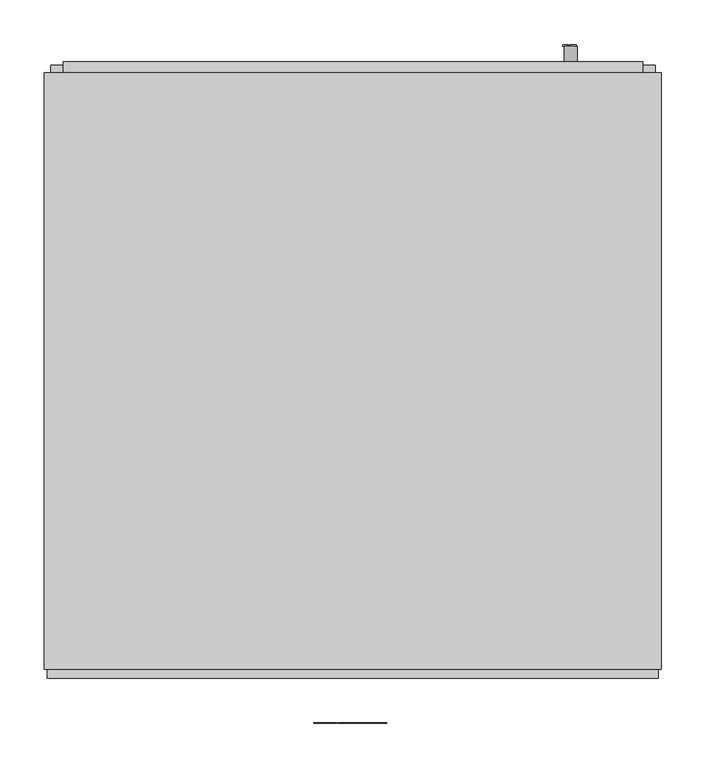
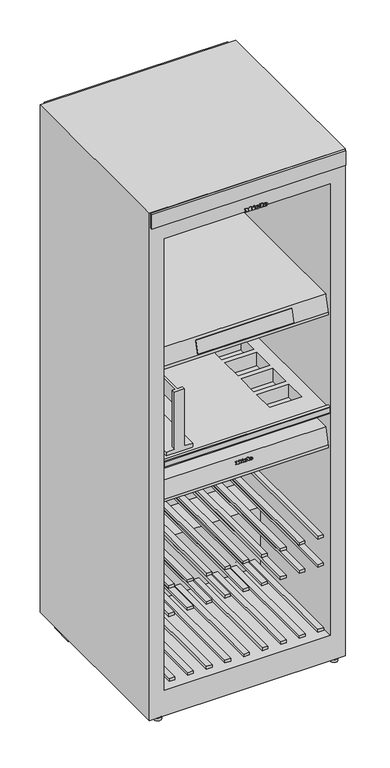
"""IFC4 building model written with IfcOpenShell, lengths in millimetres: proxy geometry, 10423090_OER_KWT6834SGS : 36683400_OER_10423090_KWT6834SGS."""

from ifc_helpers import new_model, si_unit, point, frame, frame_2d, origin, origin_with_axes, place, context, project, spatial, polyline, circle_curve, ellipse_curve, trimmed, segment, composite_curve, outline, extrude, faceted_brep, source, transform, mapped, element, save
from ifc_brep_helpers import plane_surface, cylinder_surface, revolved_surface, extruded_surface, advanced_brep


def specialty_equipment_a5f2656a(model_context):
    return source(origin(), model_context, "Body", "SolidModel", [
        faceted_brep([(-270.0, 599.167453, 974.0725635), (-270.0, 92.832547, 974.0725635), (-240.0, 92.832547, 974.0725635), (-240.0, 105.2096606, 974.0725635), (-205.0, 105.2096606, 974.0725635), (-205.0, 92.832547, 974.0725635), (-175.0, 92.832547, 974.0725635), (-175.0, 599.167453, 974.0725635), (-205.0, 599.167453, 974.0725635), (-205.0, 587.167453, 974.0725635), (-240.0, 587.167453, 974.0725635), (-240.0, 599.167453, 974.0725635), (-175.0, 599.167453, 959.0725635), (-175.0, 92.832547, 959.0725635), (-270.0, 92.832547, 959.0725635), (-270.0, 599.167453, 959.0725635), (-240.0, 599.167453, 1189.0725635), (-205.0, 599.167453, 1189.0725635), (-205.0, 92.832547, 1189.0725635), (-240.0, 92.832547, 1189.0725635), (-240.0, 587.167453, 1189.0725635), (-230.0, 587.167453, 1189.0725635), (-230.0, 105.2096606, 1189.0725635), (-240.0, 105.2096606, 1189.0725635), (-205.0, 105.2096606, 1189.0725635), (-223.7040205, 105.2096606, 1189.0725635), (-223.7040205, 587.167453, 1189.0725635), (-205.0, 587.167453, 1189.0725635), (-223.7040205, 587.167453, 1139.0725635), (-205.0, 587.167453, 1139.0725635), (-205.0, 587.167453, 1129.0725635), (-230.0, 587.167453, 1129.0725635), (-205.0, 105.2096606, 1139.0725635), (-205.0, 105.2096606, 1129.0725635), (-223.7040205, 105.2096606, 1139.0725635), (-230.0, 105.2096606, 1129.0725635)], [[[0, 1, 2, 3, 4, 5, 6, 7, 8, 9, 10, 11]], [[12, 13, 14, 15]], [[12, 15, 0, 11, 16, 17, 8, 7]], [[1, 0, 15, 14]], [[14, 13, 6, 5, 18, 19, 2, 1]], [[7, 6, 13, 12]], [[17, 16, 20, 21, 22, 23, 19, 18, 24, 25, 26, 27]], [[20, 16, 11, 10]], [[27, 26, 28, 29]], [[20, 10, 9, 30, 31, 21]], [[17, 27, 29, 32, 24, 18, 5, 4, 33, 30, 9, 8]], [[19, 23, 3, 2]], [[25, 24, 32, 34]], [[3, 23, 22, 35, 33, 4]], [[26, 25, 34, 28]], [[35, 31, 30, 33]], [[22, 21, 31, 35]], [[32, 29, 28, 34]]]),
        faceted_brep([(-295.0, 622.0, 959.0725635), (-295.0, 70.0, 959.0725635), (295.0, 70.0, 959.0725635), (295.0, 622.0, 959.0725635), (138.0, 534.5, 959.0725635), (251.0, 534.5, 959.0725635), (251.0, 454.5, 959.0725635), (138.0, 454.5, 959.0725635), (138.0, 437.0, 959.0725635), (251.0, 437.0, 959.0725635), (251.0, 355.0, 959.0725635), (138.0, 355.0, 959.0725635), (138.0, 337.0, 959.0725635), (251.0, 337.0, 959.0725635), (251.0, 257.0, 959.0725635), (138.0, 257.0, 959.0725635), (138.0, 239.0, 959.0725635), (251.0, 239.0, 959.0725635), (251.0, 159.0, 959.0725635), (138.0, 159.0, 959.0725635), (295.0, 622.0, 949.5), (295.0, 70.0, 949.5), (-295.0, 70.0, 949.5), (-295.0, 622.0, 949.5), (130.0, 546.0, 949.5), (130.0, 146.0, 949.5), (259.0, 146.0, 949.5), (259.0, 546.0, 949.5), (295.0, 632.0, 941.4661502), (-295.0, 632.0, 941.4661502), (-295.0, 632.0, 944.4661502), (295.0, 632.0, 944.4661502), (-295.0, 632.0, 967.4661502), (295.0, 632.0, 967.4661502), (295.0, 632.0, 964.4661502), (-295.0, 632.0, 964.4661502), (-295.0, 622.0, 941.4661502), (-295.0, 70.0, 941.4661502), (-295.0, 60.0, 941.4661502), (-295.0, 60.0, 944.4661502), (-295.0, 60.5645722, 944.4661502), (-295.0, 60.5645722, 964.4661502), (-295.0, 60.0, 964.4661502), (-295.0, 60.0, 967.4661502), (-295.0, 70.0, 967.4661502), (-295.0, 622.0, 967.4661502), (-295.0, 631.0, 964.4661502), (-295.0, 631.0, 944.4661502), (295.0, 60.0, 967.4661502), (295.0, 60.0, 964.4661502), (295.0, 60.0, 941.4661502), (295.0, 60.0, 944.4661502), (295.0, 622.0, 967.4661502), (295.0, 70.0, 967.4661502), (295.0, 60.5645722, 964.4661502), (295.0, 60.5645722, 944.4661502), (295.0, 70.0, 941.4661502), (295.0, 622.0, 941.4661502), (295.0, 631.0, 944.4661502), (295.0, 631.0, 964.4661502), (130.0, 146.0, 880.5), (130.0, 546.0, 880.5), (259.0, 546.0, 880.5), (259.0, 146.0, 880.5), (251.0, 534.5, 908.4654333), (138.0, 534.5, 908.4654333), (138.0, 454.5, 908.4654333), (251.0, 454.5, 908.4654333), (251.0, 437.0, 908.4654333), (138.0, 437.0, 908.4654333), (138.0, 355.0, 908.4654333), (251.0, 355.0, 908.4654333), (251.0, 337.0, 908.4654333), (138.0, 337.0, 908.4654333), (138.0, 257.0, 908.4654333), (251.0, 257.0, 908.4654333), (251.0, 239.0, 908.4654333), (138.0, 239.0, 908.4654333), (138.0, 159.0, 908.4654333), (251.0, 159.0, 908.4654333)], [[[0, 1, 2, 3], [4, 5, 6, 7], [8, 9, 10, 11], [12, 13, 14, 15], [16, 17, 18, 19]], [[20, 21, 22, 23], [24, 25, 26, 27]], [[28, 29, 30, 31]], [[32, 33, 34, 35]], [[29, 36, 23, 22, 37, 38, 39, 40, 41, 42, 43, 44, 1, 0, 45, 32, 35, 46, 47, 30]], [[48, 43, 42, 49]], [[38, 50, 51, 39]], [[33, 52, 3, 2, 53, 48, 49, 54, 55, 51, 50, 56, 21, 20, 57, 28, 31, 58, 59, 34]], [[52, 33, 32, 45]], [[52, 45, 0, 3]], [[36, 57, 20, 23]], [[28, 57, 36, 29]], [[48, 53, 44, 43]], [[56, 50, 38, 37]], [[44, 53, 2, 1]], [[56, 37, 22, 21]], [[60, 61, 62, 63]], [[61, 60, 25, 24]], [[63, 62, 27, 26]], [[64, 65, 66, 67]], [[68, 69, 70, 71]], [[72, 73, 74, 75]], [[76, 77, 78, 79]], [[65, 64, 5, 4]], [[66, 65, 4, 7]], [[67, 66, 7, 6]], [[64, 67, 6, 5]], [[69, 68, 9, 8]], [[70, 69, 8, 11]], [[71, 70, 11, 10]], [[68, 71, 10, 9]], [[73, 72, 13, 12]], [[74, 73, 12, 15]], [[75, 74, 15, 14]], [[72, 75, 14, 13]], [[77, 76, 17, 16]], [[78, 77, 16, 19]], [[79, 78, 19, 18]], [[76, 79, 18, 17]], [[54, 41, 40, 55]], [[41, 54, 49, 42]], [[55, 40, 39, 51]], [[58, 47, 46, 59]], [[47, 58, 31, 30]], [[59, 46, 35, 34]], [[62, 61, 24, 27]], [[60, 63, 26, 25]]]),
        extrude(outline(polyline([(0.0, -5.0), (0.0, 0.0), (342.0, 0.0), (342.0, -5.0), (0.0, -5.0)])), frame((171.0, 69.1703709, 1321.2940952), z_axis=(0.0, 0.25881904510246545, 0.9659258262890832), x_axis=(-1.0, 0.0, 0.0)), (0.0, 0.0, 1.0), 48.0),
        advanced_brep(
        [(21.8256669, 73.8348323, 857.0899422), (21.8256669, 74.0962396, 858.0655273), (28.5156669, 74.0962396, 858.0655273), (16.8756669, 74.0962396, 858.0655273), (19.6256669, 73.2214312, 854.800698), (28.3456669, 73.8348323, 857.0899422), (25.3256669, 73.8348323, 857.0899422), (22.9456669, 73.544955, 856.0081053), (21.8256669, 74.4275279, 859.3019123), (21.8256669, 74.7096407, 860.3547715), (23.5356669, 74.7096407, 860.3547715), (23.5356669, 74.4275279, 859.3019123), (21.8256669, 74.8007582, 856.8311232), (22.9456669, 74.5108808, 855.7492862), (25.3256669, 74.8007582, 856.8311232), (28.3456669, 74.8007582, 856.8311232), (19.6256669, 74.187357, 854.5418789), (16.8756669, 75.0621654, 857.8067082), (28.5156669, 75.0621654, 857.8067082), (21.8256669, 75.0621654, 857.8067082), (21.8256669, 75.3934538, 859.0430933), (23.5356669, 75.3934538, 859.0430933), (23.5356669, 75.6755665, 860.0959524), (21.8256669, 75.6755665, 860.0959524)],
        [
            (0, 1),
            (1, 2),
            (2, 3, ellipse_curve(frame((22.6956669, 74.0962396, 858.0655273), z_axis=(0.0, -0.9659258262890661, 0.2588190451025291), x_axis=(-1.0, 0.0, 0.0)), 5.82, 4.81)),
            (3, 4, circle_curve(frame((20.7457214, 74.184238, 858.3939421), z_axis=(0.0, -0.9659258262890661, 0.2588190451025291), x_axis=(0.0, -0.2588190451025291, -0.9659258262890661)), 3.884961)),
            (4, 5, circle_curve(frame((22.5791589, 74.8675203, 860.9439862), z_axis=(0.0, -0.9659258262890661, 0.2588190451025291), x_axis=(0.0, -0.2588190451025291, -0.9659258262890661)), 7.0123259)),
            (5, 6),
            (6, 7, circle_curve(frame((23.4344904, 74.075534, 857.9882532), z_axis=(0.0, 0.9659258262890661, -0.2588190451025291), x_axis=(0.0, -0.2588190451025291, -0.9659258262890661)), 2.1074744)),
            (7, 0, circle_curve(frame((22.9456669, 73.8348323, 857.0899422), z_axis=(0.0, 0.9659258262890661, -0.2588190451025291), x_axis=(0.0, -0.2588190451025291, -0.9659258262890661)), 1.12)),
            (8, 9),
            (9, 10, circle_curve(frame((22.6806669, 74.7096407, 860.3547715), z_axis=(0.0, 0.9659258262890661, -0.2588190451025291), x_axis=(0.0, -0.2588190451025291, -0.9659258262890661)), 0.855)),
            (10, 11),
            (11, 8),
            (12, 13, circle_curve(frame((22.9456669, 74.8007582, 856.8311232), z_axis=(0.0, -0.9659258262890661, 0.2588190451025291), x_axis=(0.0, -0.2588190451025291, -0.9659258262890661)), 1.12)),
            (13, 14, circle_curve(frame((23.4344904, 75.0414599, 857.7294342), z_axis=(0.0, -0.9659258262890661, 0.2588190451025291), x_axis=(0.0, -0.2588190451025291, -0.9659258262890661)), 2.1074744)),
            (14, 15),
            (15, 16, circle_curve(frame((22.5791589, 75.8334461, 860.6851672), z_axis=(0.0, 0.9659258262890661, -0.2588190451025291), x_axis=(0.0, -0.2588190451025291, -0.9659258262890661)), 7.0123259)),
            (16, 17, circle_curve(frame((20.7457214, 75.1501639, 858.135123), z_axis=(0.0, 0.9659258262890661, -0.2588190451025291), x_axis=(0.0, -0.2588190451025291, -0.9659258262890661)), 3.884961)),
            (17, 18, ellipse_curve(frame((22.6956669, 75.0621654, 857.8067082), z_axis=(0.0, 0.9659258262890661, -0.2588190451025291), x_axis=(-1.0, 0.0, 0.0)), 5.82, 4.81)),
            (18, 19),
            (19, 12),
            (20, 21),
            (21, 22),
            (22, 23, circle_curve(frame((22.6806669, 75.6755665, 860.0959524), z_axis=(0.0, -0.9659258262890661, 0.2588190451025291), x_axis=(0.0, -0.2588190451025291, -0.9659258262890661)), 0.855)),
            (23, 20),
            (0, 12),
            (19, 1),
            (18, 2),
            (5, 15),
            (14, 6),
            (17, 3),
            (13, 7),
            (16, 4),
            (8, 20),
            (23, 9),
            (22, 10),
            (21, 11),
        ],
        [
            plane_surface(frame((21.8256669, 74.0962396, 858.0655273), z_axis=(0.0, -0.9659258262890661, 0.2588190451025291), x_axis=(0.0, 0.2588190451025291, 0.9659258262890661))),
            plane_surface(frame((21.8256669, 75.0621654, 857.8067082), z_axis=(0.0, 0.9659258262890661, -0.2588190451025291), x_axis=(0.0, -0.2588190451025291, -0.9659258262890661))),
            plane_surface(frame((21.8256669, 73.8348323, 857.0899422), z_axis=(1.0, 0.0, 0.0), x_axis=(0.0, 0.9659258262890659, -0.2588190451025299))),
            plane_surface(frame((21.8256669, 74.0962396, 858.0655273), z_axis=(0.0, -0.2588190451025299, -0.9659258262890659), x_axis=(0.0, 0.9659258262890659, -0.2588190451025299))),
            plane_surface(frame((28.3456669, 73.8348323, 857.0899422), z_axis=(0.0, 0.2588190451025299, 0.9659258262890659), x_axis=(0.0, 0.9659258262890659, -0.2588190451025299))),
            extruded_surface(trimmed(ellipse_curve(frame((22.6956669, 76.0280912, 857.5478892), z_axis=(0.0, -0.9659258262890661, 0.2588190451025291), x_axis=(-1.0, 0.0, 0.0)), 5.82, 4.81), [point((28.5156669, 76.0280912, 857.5478892))], [point((16.8756669, 76.0280912, 857.5478892))], True, "CARTESIAN"), (0.0, -0.9659258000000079, 0.2588190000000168), 0.9999999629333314),
            revolved_surface(polyline([(23.4344904, 74.49600539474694, 855.6937702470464), (23.4344904, 73.5300795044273, 855.9525893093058)]), (23.4344904, 75.0414599, 857.7294342), (0.0, 0.9659258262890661, -0.2588190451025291)),
            revolved_surface(polyline([(22.9456669, 74.51088086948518, 855.7492862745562), (22.9456669, 73.5449549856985, 856.0081053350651)]), (22.9456669, 74.8007582, 856.8311232), (0.0, 0.9659258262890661, -0.2588190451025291)),
            cylinder_surface(frame((20.7457214, 75.1501639, 858.135123), z_axis=(0.0, -0.9659258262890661, 0.2588190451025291), x_axis=(0.0, -0.2588190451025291, -0.9659258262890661)), 3.884961),
            cylinder_surface(frame((22.5791589, 75.8334461, 860.6851672), z_axis=(0.0, -0.9659258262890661, 0.2588190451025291), x_axis=(0.0, -0.2588190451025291, -0.9659258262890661)), 7.0123259),
            plane_surface(frame((21.8256669, 74.4275279, 859.3019123), z_axis=(1.0, 0.0, 0.0), x_axis=(0.0, 0.9659258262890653, -0.25881904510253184))),
            revolved_surface(polyline([(22.6806669, 75.45427621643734, 859.2700858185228), (22.6806669, 74.48835040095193, 859.5289048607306)]), (22.6806669, 75.6755665, 860.0959524), (0.0, 0.9659258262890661, -0.2588190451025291)),
            plane_surface(frame((23.5356669, 74.7096407, 860.3547715), z_axis=(-1.0, 0.0, 0.0), x_axis=(0.0, 0.9659258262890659, -0.2588190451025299))),
            plane_surface(frame((23.5356669, 74.4275279, 859.3019123), z_axis=(0.0, 0.2588190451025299, 0.9659258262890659), x_axis=(0.0, 0.9659258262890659, -0.2588190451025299))),
        ],
        [
            (0, [[1, 2, 3, 4, 5, 6, 7, 8], [9, 10, 11, 12]]),
            (1, [[13, 14, 15, 16, 17, 18, 19, 20], [21, 22, 23, 24]]),
            (2, [[-1, 25, -20, 26]]),
            (3, [[-2, -26, -19, 27]]),
            (4, [[-6, 28, -15, 29]]),
            (5, [[-3, -27, -18, 30]]),
            (6, [[-7, -29, -14, 31]]),
            (7, [[-8, -31, -13, -25]]),
            (8, [[-4, -30, -17, 32]]),
            (9, [[-5, -32, -16, -28]]),
            (10, [[-9, 33, -24, 34]]),
            (11, [[-10, -34, -23, 35]]),
            (12, [[-11, -35, -22, 36]]),
            (13, [[-12, -36, -21, -33]]),
        ],
    ),
        advanced_brep(
        [(0.9556669, 73.8348323, 857.0899422), (0.9556669, 74.0962396, 858.0655273), (7.6456669, 74.0962396, 858.0655273), (-3.9943331, 74.0962396, 858.0655273), (-1.2443331, 73.2214312, 854.800698), (7.4756669, 73.8348323, 857.0899422), (4.4556669, 73.8348323, 857.0899422), (2.0756669, 73.544955, 856.0081053), (0.9556669, 74.4275279, 859.3019123), (0.9556669, 74.7096407, 860.3547715), (2.6656669, 74.7096407, 860.3547715), (2.6656669, 74.4275279, 859.3019123), (0.9556669, 74.8007582, 856.8311232), (2.0756669, 74.5108808, 855.7492862), (4.4556669, 74.8007582, 856.8311232), (7.4756669, 74.8007582, 856.8311232), (-1.2443331, 74.187357, 854.5418789), (-3.9943331, 75.0621654, 857.8067082), (7.6456669, 75.0621654, 857.8067082), (0.9556669, 75.0621654, 857.8067082), (0.9556669, 75.3934538, 859.0430933), (2.6656669, 75.3934538, 859.0430933), (2.6656669, 75.6755665, 860.0959524), (0.9556669, 75.6755665, 860.0959524)],
        [
            (0, 1),
            (1, 2),
            (2, 3, ellipse_curve(frame((1.8256669, 74.0962396, 858.0655273), z_axis=(0.0, -0.9659258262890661, 0.2588190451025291), x_axis=(-1.0, 0.0, 0.0)), 5.82, 4.81)),
            (3, 4, circle_curve(frame((-0.1242786, 74.184238, 858.3939421), z_axis=(0.0, -0.9659258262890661, 0.2588190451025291), x_axis=(0.0, -0.2588190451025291, -0.9659258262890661)), 3.884961)),
            (4, 5, circle_curve(frame((1.7091589, 74.8675203, 860.9439862), z_axis=(0.0, -0.9659258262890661, 0.2588190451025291), x_axis=(0.0, -0.2588190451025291, -0.9659258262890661)), 7.0123259)),
            (5, 6),
            (6, 7, circle_curve(frame((2.5644904, 74.075534, 857.9882532), z_axis=(0.0, 0.9659258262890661, -0.2588190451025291), x_axis=(0.0, -0.2588190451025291, -0.9659258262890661)), 2.1074744)),
            (7, 0, circle_curve(frame((2.0756669, 73.8348323, 857.0899422), z_axis=(0.0, 0.9659258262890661, -0.2588190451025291), x_axis=(0.0, -0.2588190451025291, -0.9659258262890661)), 1.12)),
            (8, 9),
            (9, 10, circle_curve(frame((1.8106669, 74.7096407, 860.3547715), z_axis=(0.0, 0.9659258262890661, -0.2588190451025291), x_axis=(0.0, -0.2588190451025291, -0.9659258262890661)), 0.855)),
            (10, 11),
            (11, 8),
            (12, 13, circle_curve(frame((2.0756669, 74.8007582, 856.8311232), z_axis=(0.0, -0.9659258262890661, 0.2588190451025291), x_axis=(0.0, -0.2588190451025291, -0.9659258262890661)), 1.12)),
            (13, 14, circle_curve(frame((2.5644904, 75.0414599, 857.7294342), z_axis=(0.0, -0.9659258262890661, 0.2588190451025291), x_axis=(0.0, -0.2588190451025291, -0.9659258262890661)), 2.1074744)),
            (14, 15),
            (15, 16, circle_curve(frame((1.7091589, 75.8334461, 860.6851672), z_axis=(0.0, 0.9659258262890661, -0.2588190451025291), x_axis=(0.0, -0.2588190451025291, -0.9659258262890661)), 7.0123259)),
            (16, 17, circle_curve(frame((-0.1242786, 75.1501639, 858.135123), z_axis=(0.0, 0.9659258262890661, -0.2588190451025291), x_axis=(0.0, -0.2588190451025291, -0.9659258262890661)), 3.884961)),
            (17, 18, ellipse_curve(frame((1.8256669, 75.0621654, 857.8067082), z_axis=(0.0, 0.9659258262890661, -0.2588190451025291), x_axis=(-1.0, 0.0, 0.0)), 5.82, 4.81)),
            (18, 19),
            (19, 12),
            (20, 21),
            (21, 22),
            (22, 23, circle_curve(frame((1.8106669, 75.6755665, 860.0959524), z_axis=(0.0, -0.9659258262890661, 0.2588190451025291), x_axis=(0.0, -0.2588190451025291, -0.9659258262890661)), 0.855)),
            (23, 20),
            (0, 12),
            (19, 1),
            (18, 2),
            (5, 15),
            (14, 6),
            (17, 3),
            (13, 7),
            (16, 4),
            (8, 20),
            (23, 9),
            (22, 10),
            (21, 11),
        ],
        [
            plane_surface(frame((0.9556669, 74.0962396, 858.0655273), z_axis=(0.0, -0.9659258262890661, 0.2588190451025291), x_axis=(0.0, 0.2588190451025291, 0.9659258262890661))),
            plane_surface(frame((0.9556669, 75.0621654, 857.8067082), z_axis=(0.0, 0.9659258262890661, -0.2588190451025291), x_axis=(0.0, -0.2588190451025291, -0.9659258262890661))),
            plane_surface(frame((0.9556669, 73.8348323, 857.0899422), z_axis=(1.0, 0.0, 0.0), x_axis=(0.0, 0.9659258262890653, -0.25881904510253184))),
            plane_surface(frame((0.9556669, 74.0962396, 858.0655273), z_axis=(0.0, -0.2588190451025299, -0.9659258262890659), x_axis=(0.0, 0.9659258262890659, -0.2588190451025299))),
            plane_surface(frame((7.4756669, 73.8348323, 857.0899422), z_axis=(0.0, 0.2588190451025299, 0.9659258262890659), x_axis=(0.0, 0.9659258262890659, -0.2588190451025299))),
            extruded_surface(trimmed(ellipse_curve(frame((1.8256669, 76.0280912, 857.5478892), z_axis=(0.0, -0.9659258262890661, 0.2588190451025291), x_axis=(-1.0, 0.0, 0.0)), 5.82, 4.81), [point((7.6456669, 76.0280912, 857.5478892))], [point((-3.9943331, 76.0280912, 857.5478892))], True, "CARTESIAN"), (0.0, -0.9659258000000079, 0.2588190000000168), 0.9999999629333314),
            revolved_surface(polyline([(2.5644904, 74.49600539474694, 855.6937702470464), (2.5644904, 73.5300795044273, 855.9525893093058)]), (2.5644904, 75.0414599, 857.7294342), (0.0, 0.9659258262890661, -0.2588190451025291)),
            revolved_surface(polyline([(2.0756669, 74.51088086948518, 855.7492862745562), (2.0756669, 73.5449549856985, 856.0081053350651)]), (2.0756669, 74.8007582, 856.8311232), (0.0, 0.9659258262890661, -0.2588190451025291)),
            cylinder_surface(frame((-0.1242786, 75.1501639, 858.135123), z_axis=(0.0, -0.9659258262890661, 0.2588190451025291), x_axis=(0.0, -0.2588190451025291, -0.9659258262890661)), 3.884961),
            cylinder_surface(frame((1.7091589, 75.8334461, 860.6851672), z_axis=(0.0, -0.9659258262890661, 0.2588190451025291), x_axis=(0.0, -0.2588190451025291, -0.9659258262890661)), 7.0123259),
            plane_surface(frame((0.9556669, 74.4275279, 859.3019123), z_axis=(1.0, 0.0, 0.0), x_axis=(0.0, 0.9659258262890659, -0.2588190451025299))),
            revolved_surface(polyline([(1.8106669, 75.45427621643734, 859.2700858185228), (1.8106669, 74.48835040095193, 859.5289048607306)]), (1.8106669, 75.6755665, 860.0959524), (0.0, 0.9659258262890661, -0.2588190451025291)),
            plane_surface(frame((2.6656669, 74.7096407, 860.3547715), z_axis=(-1.0, 0.0, 0.0), x_axis=(0.0, 0.9659258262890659, -0.2588190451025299))),
            plane_surface(frame((2.6656669, 74.4275279, 859.3019123), z_axis=(0.0, 0.2588190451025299, 0.9659258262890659), x_axis=(0.0, 0.9659258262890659, -0.2588190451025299))),
        ],
        [
            (0, [[1, 2, 3, 4, 5, 6, 7, 8], [9, 10, 11, 12]]),
            (1, [[13, 14, 15, 16, 17, 18, 19, 20], [21, 22, 23, 24]]),
            (2, [[-1, 25, -20, 26]]),
            (3, [[-2, -26, -19, 27]]),
            (4, [[-6, 28, -15, 29]]),
            (5, [[-3, -27, -18, 30]]),
            (6, [[-7, -29, -14, 31]]),
            (7, [[-8, -31, -13, -25]]),
            (8, [[-4, -30, -17, 32]]),
            (9, [[-5, -32, -16, -28]]),
            (10, [[-9, 33, -24, 34]]),
            (11, [[-10, -34, -23, 35]]),
            (12, [[-11, -35, -22, 36]]),
            (13, [[-12, -36, -21, -33]]),
        ],
    ),
        extrude(outline(polyline([(0.0, 0.0), (-0.0136358, -3.7491618), (-1.7988019, -3.7401085), (-1.7894134, 0.0), (0.0, 0.0)])), frame((-9.9743331, 76.6228442, 863.631241), z_axis=(0.0, -0.9659258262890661, 0.2588190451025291), x_axis=(-0.42472021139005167, 0.2343152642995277, 0.874476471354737)), (0.0, 0.0, 1.0), 1.0),
        extrude(outline(polyline([(-0.6167384, 3.0176371), (-3.4751054, -3.0751979), (-8.8074678, -0.5735958), (-9.3001432, -1.6237724), (-10.8210887, -0.9102424), (-7.4700462, 6.2327691), (-5.9491008, 5.5192392), (-6.4545178, 4.4419028), (-2.7426867, 2.70055), (-2.2372696, 3.7778863), (-0.6167384, 3.0176371)])), frame((-9.9743331, 76.6228442, 863.631241), z_axis=(0.0, -0.9659258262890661, 0.2588190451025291), x_axis=(-0.42472021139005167, 0.2343152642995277, 0.874476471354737)), (0.0, 0.0, 1.0), 1.0),
        extrude(outline(polyline([(0.0, 0.0), (0.0, -1.63), (-6.88, -1.63), (-6.88, 6.69), (-8.11, 6.69), (-8.11, 8.37), (0.0, 8.37), (0.0, 6.69), (-1.2, 6.69), (-1.2, 0.0), (0.0, 0.0)])), frame((8.2056669, 76.3536724, 862.6266781), z_axis=(0.0, -0.9659258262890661, 0.2588190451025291), x_axis=(-1.0, 0.0, 0.0)), (0.0, 0.0, 1.0), 1.0),
        extrude(outline(polyline([(0.0, 0.0), (0.0, -1.63), (-6.97, -1.63), (-9.9, 2.12), (-12.82, -1.63), (-18.91, -1.63), (-18.91, 0.0), (-17.64, 0.0), (-17.64, 6.69), (-18.91, 6.69), (-18.91, 8.37), (-10.93, 8.37), (-10.93, 6.69), (-12.16, 6.69), (-12.16, 2.3807777), (-7.67, 8.37), (-3.2, 2.4488752), (-3.2, 6.69), (-4.4, 6.69), (-4.4, 8.37), (0.0, 8.37), (0.0, 6.69), (-1.21, 6.69), (-1.21, 0.0), (0.0, 0.0)])), frame((-32.3743331, 76.3536724, 862.6266781), z_axis=(0.0, -0.9659258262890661, 0.2588190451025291), x_axis=(-1.0, 0.0, 0.0)), (0.0, 0.0, 1.0), 1.0),
        advanced_brep(
        [(29.17, -1.0, 1856.2526911), (29.17, -1.0, 1857.6161911), (38.2015, -1.0, 1857.6161911), (22.4875, -1.0, 1857.6161911), (26.2, -1.0, 1853.0531911), (37.972, -1.0, 1856.2526911), (33.895, -1.0, 1856.2526911), (30.682, -1.0, 1854.7406911), (29.17, -1.0, 1859.3441911), (29.17, -1.0, 1860.8156911), (31.4785, -1.0, 1860.8156911), (31.4785, -1.0, 1859.3441911), (29.17, 0.0, 1856.2526911), (30.682, 0.0, 1854.7406911), (33.895, 0.0, 1856.2526911), (37.972, 0.0, 1856.2526911), (26.2, 0.0, 1853.0531911), (22.4875, 0.0, 1857.6161911), (38.2015, 0.0, 1857.6161911), (29.17, 0.0, 1857.6161911), (29.17, 0.0, 1859.3441911), (31.4785, 0.0, 1859.3441911), (31.4785, 0.0, 1860.8156911), (29.17, 0.0, 1860.8156911)],
        [
            (0, 1),
            (1, 2),
            (2, 3, ellipse_curve(frame((30.3445, -1.0, 1857.6161911), z_axis=(0.0, -1.0, 0.0), x_axis=(-1.0, 0.0, 0.0)), 7.857, 6.4935)),
            (3, 4, circle_curve(frame((27.7120736, -1.0, 1858.0751911), z_axis=(0.0, -1.0, 0.0), x_axis=(0.0, 0.0, -1.0)), 5.2446974)),
            (4, 5, circle_curve(frame((30.1872142, -1.0, 1861.6391911), z_axis=(0.0, -1.0, 0.0), x_axis=(0.0, 0.0, -1.0)), 9.46664)),
            (5, 6),
            (6, 7, circle_curve(frame((31.3419118, -1.0, 1857.5081911), z_axis=(0.0, 1.0, 0.0), x_axis=(0.0, 0.0, -1.0)), 2.8450905)),
            (7, 0, circle_curve(frame((30.682, -1.0, 1856.2526911), z_axis=(0.0, 1.0, 0.0), x_axis=(0.0, 0.0, -1.0)), 1.512)),
            (8, 9),
            (9, 10, circle_curve(frame((30.32425, -1.0, 1860.8156911), z_axis=(0.0, 1.0, 0.0), x_axis=(0.0, 0.0, -1.0)), 1.15425)),
            (10, 11),
            (11, 8),
            (12, 13, circle_curve(frame((30.682, 0.0, 1856.2526911), z_axis=(0.0, -1.0, 0.0), x_axis=(0.0, 0.0, -1.0)), 1.512)),
            (13, 14, circle_curve(frame((31.3419118, 0.0, 1857.5081911), z_axis=(0.0, -1.0, 0.0), x_axis=(0.0, 0.0, -1.0)), 2.8450905)),
            (14, 15),
            (15, 16, circle_curve(frame((30.1872142, 0.0, 1861.6391911), z_axis=(0.0, 1.0, 0.0), x_axis=(0.0, 0.0, -1.0)), 9.46664)),
            (16, 17, circle_curve(frame((27.7120736, 0.0, 1858.0751911), z_axis=(0.0, 1.0, 0.0), x_axis=(0.0, 0.0, -1.0)), 5.2446974)),
            (17, 18, ellipse_curve(frame((30.3445, 0.0, 1857.6161911), z_axis=(0.0, 1.0, 0.0), x_axis=(-1.0, 0.0, 0.0)), 7.857, 6.4935)),
            (18, 19),
            (19, 12),
            (20, 21),
            (21, 22),
            (22, 23, circle_curve(frame((30.32425, 0.0, 1860.8156911), z_axis=(0.0, -1.0, 0.0), x_axis=(0.0, 0.0, -1.0)), 1.15425)),
            (23, 20),
            (0, 12),
            (19, 1),
            (18, 2),
            (5, 15),
            (14, 6),
            (17, 3),
            (13, 7),
            (16, 4),
            (8, 20),
            (23, 9),
            (22, 10),
            (21, 11),
        ],
        [
            plane_surface(frame((29.17, -1.0, 1857.6161911), z_axis=(0.0, -1.0, 0.0), x_axis=(0.0, 0.0, 1.0))),
            plane_surface(frame((29.17, 0.0, 1857.6161911), z_axis=(0.0, 1.0, 0.0), x_axis=(0.0, 0.0, -1.0))),
            plane_surface(frame((29.17, -1.0, 1856.2526911), z_axis=(1.0, 0.0, 0.0), x_axis=(0.0, 1.0, 0.0))),
            plane_surface(frame((29.17, -1.0, 1857.6161911), z_axis=(0.0, 0.0, -1.0), x_axis=(0.0, 1.0, 0.0))),
            plane_surface(frame((37.972, -1.0, 1856.2526911), z_axis=(0.0, 0.0, 1.0), x_axis=(0.0, 1.0, 0.0))),
            extruded_surface(trimmed(ellipse_curve(frame((30.3445, 1.0, 1857.6161911), z_axis=(0.0, -1.0, 0.0), x_axis=(-1.0, 0.0, 0.0)), 7.857, 6.4935), [point((38.2015, 1.0, 1857.6161911))], [point((22.4875, 1.0, 1857.6161911))], True, "CARTESIAN"), (0.0, -1.0, 0.0), 1.0),
            revolved_surface(polyline([(31.3419118, 0.0, 1854.6631006), (31.3419118, -1.0, 1854.6631006)]), (31.3419118, 0.0, 1857.5081911), (0.0, 1.0, 0.0)),
            revolved_surface(polyline([(30.682, 0.0, 1854.7406911), (30.682, -1.0, 1854.7406911)]), (30.682, 0.0, 1856.2526911), (0.0, 1.0, 0.0)),
            cylinder_surface(frame((27.7120736, 0.0, 1858.0751911), z_axis=(0.0, -1.0, 0.0), x_axis=(0.0, 0.0, -1.0)), 5.2446974),
            cylinder_surface(frame((30.1872142, 0.0, 1861.6391911), z_axis=(0.0, -1.0, 0.0), x_axis=(0.0, 0.0, -1.0)), 9.46664),
            plane_surface(frame((29.17, -1.0, 1859.3441911), z_axis=(1.0, 0.0, 0.0), x_axis=(0.0, 1.0, 0.0))),
            revolved_surface(polyline([(30.32425, 0.0, 1859.6614411), (30.32425, -1.0, 1859.6614411)]), (30.32425, 0.0, 1860.8156911), (0.0, 1.0, 0.0)),
            plane_surface(frame((31.4785, -1.0, 1860.8156911), z_axis=(-1.0, 0.0, 0.0), x_axis=(0.0, 1.0, 0.0))),
            plane_surface(frame((31.4785, -1.0, 1859.3441911), z_axis=(0.0, 0.0, 1.0), x_axis=(0.0, 1.0, 0.0))),
        ],
        [
            (0, [[1, 2, 3, 4, 5, 6, 7, 8], [9, 10, 11, 12]]),
            (1, [[13, 14, 15, 16, 17, 18, 19, 20], [21, 22, 23, 24]]),
            (2, [[-1, 25, -20, 26]]),
            (3, [[-2, -26, -19, 27]]),
            (4, [[-6, 28, -15, 29]]),
            (5, [[-3, -27, -18, 30]]),
            (6, [[-7, -29, -14, 31]]),
            (7, [[-8, -31, -13, -25]]),
            (8, [[-4, -30, -17, 32]]),
            (9, [[-5, -32, -16, -28]]),
            (10, [[-9, 33, -24, 34]]),
            (11, [[-10, -34, -23, 35]]),
            (12, [[-11, -35, -22, 36]]),
            (13, [[-12, -36, -21, -33]]),
        ],
    ),
        advanced_brep(
        [(0.9955, -1.0, 1856.2526911), (0.9955, -1.0, 1857.6161911), (10.027, -1.0, 1857.6161911), (-5.687, -1.0, 1857.6161911), (-1.9745, -1.0, 1853.0531911), (9.7975, -1.0, 1856.2526911), (5.7205, -1.0, 1856.2526911), (2.5075, -1.0, 1854.7406911), (0.9955, -1.0, 1859.3441911), (0.9955, -1.0, 1860.8156911), (3.304, -1.0, 1860.8156911), (3.304, -1.0, 1859.3441911), (0.9955, 0.0, 1856.2526911), (2.5075, 0.0, 1854.7406911), (5.7205, 0.0, 1856.2526911), (9.7975, 0.0, 1856.2526911), (-1.9745, 0.0, 1853.0531911), (-5.687, 0.0, 1857.6161911), (10.027, 0.0, 1857.6161911), (0.9955, 0.0, 1857.6161911), (0.9955, 0.0, 1859.3441911), (3.304, 0.0, 1859.3441911), (3.304, 0.0, 1860.8156911), (0.9955, 0.0, 1860.8156911)],
        [
            (0, 1),
            (1, 2),
            (2, 3, ellipse_curve(frame((2.17, -1.0, 1857.6161911), z_axis=(0.0, -1.0, 0.0), x_axis=(-1.0, 0.0, 0.0)), 7.857, 6.4935)),
            (3, 4, circle_curve(frame((-0.4624264, -1.0, 1858.0751911), z_axis=(0.0, -1.0, 0.0), x_axis=(0.0, 0.0, -1.0)), 5.2446974)),
            (4, 5, circle_curve(frame((2.0127142, -1.0, 1861.6391911), z_axis=(0.0, -1.0, 0.0), x_axis=(0.0, 0.0, -1.0)), 9.46664)),
            (5, 6),
            (6, 7, circle_curve(frame((3.1674118, -1.0, 1857.5081911), z_axis=(0.0, 1.0, 0.0), x_axis=(0.0, 0.0, -1.0)), 2.8450905)),
            (7, 0, circle_curve(frame((2.5075, -1.0, 1856.2526911), z_axis=(0.0, 1.0, 0.0), x_axis=(0.0, 0.0, -1.0)), 1.512)),
            (8, 9),
            (9, 10, circle_curve(frame((2.14975, -1.0, 1860.8156911), z_axis=(0.0, 1.0, 0.0), x_axis=(0.0, 0.0, -1.0)), 1.15425)),
            (10, 11),
            (11, 8),
            (12, 13, circle_curve(frame((2.5075, 0.0, 1856.2526911), z_axis=(0.0, -1.0, 0.0), x_axis=(0.0, 0.0, -1.0)), 1.512)),
            (13, 14, circle_curve(frame((3.1674118, 0.0, 1857.5081911), z_axis=(0.0, -1.0, 0.0), x_axis=(0.0, 0.0, -1.0)), 2.8450905)),
            (14, 15),
            (15, 16, circle_curve(frame((2.0127142, 0.0, 1861.6391911), z_axis=(0.0, 1.0, 0.0), x_axis=(0.0, 0.0, -1.0)), 9.46664)),
            (16, 17, circle_curve(frame((-0.4624264, 0.0, 1858.0751911), z_axis=(0.0, 1.0, 0.0), x_axis=(0.0, 0.0, -1.0)), 5.2446974)),
            (17, 18, ellipse_curve(frame((2.17, 0.0, 1857.6161911), z_axis=(0.0, 1.0, 0.0), x_axis=(-1.0, 0.0, 0.0)), 7.857, 6.4935)),
            (18, 19),
            (19, 12),
            (20, 21),
            (21, 22),
            (22, 23, circle_curve(frame((2.14975, 0.0, 1860.8156911), z_axis=(0.0, -1.0, 0.0), x_axis=(0.0, 0.0, -1.0)), 1.15425)),
            (23, 20),
            (0, 12),
            (19, 1),
            (18, 2),
            (5, 15),
            (14, 6),
            (17, 3),
            (13, 7),
            (16, 4),
            (8, 20),
            (23, 9),
            (22, 10),
            (21, 11),
        ],
        [
            plane_surface(frame((0.9955, -1.0, 1857.6161911), z_axis=(0.0, -1.0, 0.0), x_axis=(0.0, 0.0, 1.0))),
            plane_surface(frame((0.9955, 0.0, 1857.6161911), z_axis=(0.0, 1.0, 0.0), x_axis=(0.0, 0.0, -1.0))),
            plane_surface(frame((0.9955, -1.0, 1856.2526911), z_axis=(1.0, 0.0, 0.0), x_axis=(0.0, 1.0, 0.0))),
            plane_surface(frame((0.9955, -1.0, 1857.6161911), z_axis=(0.0, 0.0, -1.0), x_axis=(0.0, 1.0, 0.0))),
            plane_surface(frame((9.7975, -1.0, 1856.2526911), z_axis=(0.0, 0.0, 1.0), x_axis=(0.0, 1.0, 0.0))),
            extruded_surface(trimmed(ellipse_curve(frame((2.17, 1.0, 1857.6161911), z_axis=(0.0, -1.0, 0.0), x_axis=(-1.0, 0.0, 0.0)), 7.857, 6.4935), [point((10.027, 1.0, 1857.6161911))], [point((-5.687, 1.0, 1857.6161911))], True, "CARTESIAN"), (0.0, -1.0, 0.0), 1.0),
            revolved_surface(polyline([(3.1674118, 0.0, 1854.6631006), (3.1674118, -1.0, 1854.6631006)]), (3.1674118, 0.0, 1857.5081911), (0.0, 1.0, 0.0)),
            revolved_surface(polyline([(2.5075, 0.0, 1854.7406911), (2.5075, -1.0, 1854.7406911)]), (2.5075, 0.0, 1856.2526911), (0.0, 1.0, 0.0)),
            cylinder_surface(frame((-0.4624264, 0.0, 1858.0751911), z_axis=(0.0, -1.0, 0.0), x_axis=(0.0, 0.0, -1.0)), 5.2446974),
            cylinder_surface(frame((2.0127142, 0.0, 1861.6391911), z_axis=(0.0, -1.0, 0.0), x_axis=(0.0, 0.0, -1.0)), 9.46664),
            plane_surface(frame((0.9955, -1.0, 1859.3441911), z_axis=(1.0, 0.0, 0.0), x_axis=(0.0, 1.0, 0.0))),
            revolved_surface(polyline([(2.14975, 0.0, 1859.6614411), (2.14975, -1.0, 1859.6614411)]), (2.14975, 0.0, 1860.8156911), (0.0, 1.0, 0.0)),
            plane_surface(frame((3.304, -1.0, 1860.8156911), z_axis=(-1.0, 0.0, 0.0), x_axis=(0.0, 1.0, 0.0))),
            plane_surface(frame((3.304, -1.0, 1859.3441911), z_axis=(0.0, 0.0, 1.0), x_axis=(0.0, 1.0, 0.0))),
        ],
        [
            (0, [[1, 2, 3, 4, 5, 6, 7, 8], [9, 10, 11, 12]]),
            (1, [[13, 14, 15, 16, 17, 18, 19, 20], [21, 22, 23, 24]]),
            (2, [[-1, 25, -20, 26]]),
            (3, [[-2, -26, -19, 27]]),
            (4, [[-6, 28, -15, 29]]),
            (5, [[-3, -27, -18, 30]]),
            (6, [[-7, -29, -14, 31]]),
            (7, [[-8, -31, -13, -25]]),
            (8, [[-4, -30, -17, 32]]),
            (9, [[-5, -32, -16, -28]]),
            (10, [[-9, 33, -24, 34]]),
            (11, [[-10, -34, -23, 35]]),
            (12, [[-11, -35, -22, 36]]),
            (13, [[-12, -36, -21, -33]]),
        ],
    ),
        extrude(outline(polyline([(1865.7566911, -13.76), (1863.5696911, -12.734), (1865.7026911, -8.1575), (1867.8896911, -9.17), (1865.7566911, -13.76)])), frame((0.0, -1.0, 0.0), z_axis=(0.0, 1.0, 0.0), x_axis=(0.0, 0.0, 1.0)), (0.0, 0.0, 1.0), 1.0),
        extrude(outline(polyline([(1863.2726911, -17.0945), (1860.8561911, -17.0945), (1860.8561911, -15.488), (1855.3211911, -15.488), (1855.3211911, -17.0945), (1853.0531911, -17.0945), (1853.0531911, -6.443), (1855.3211911, -6.443), (1855.3211911, -8.009), (1863.2726911, -8.009), (1863.2726911, -17.0945)])), frame((0.0, -1.0, 0.0), z_axis=(0.0, 1.0, 0.0), x_axis=(0.0, 0.0, 1.0)), (0.0, 0.0, 1.0), 1.0),
        extrude(outline(polyline([(1864.3526911, 10.783), (1864.3526911, 12.403), (1855.3211911, 12.403), (1855.3211911, 10.783), (1853.0531911, 10.783), (1853.0531911, 21.7315), (1855.3211911, 21.7315), (1855.3211911, 20.071), (1866.5531911, 20.071), (1866.5531911, 10.783), (1864.3526911, 10.783)])), frame((0.0, -1.0, 0.0), z_axis=(0.0, 1.0, 0.0), x_axis=(0.0, 0.0, 1.0)), (0.0, 0.0, 1.0), 1.0),
        extrude(outline(polyline([(1864.3526911, -44.0), (1864.3526911, -42.3665), (1855.3211911, -42.3665), (1855.3211911, -44.0), (1853.0531911, -44.0), (1853.0531911, -38.06), (1855.3211911, -38.06), (1855.3211911, -39.68), (1861.0288159, -39.68), (1853.0531911, -33.6455), (1861.3059134, -27.584), (1855.3211911, -27.584), (1855.3211911, -29.2445), (1853.0531911, -29.2445), (1853.0531911, -18.4715), (1855.3211911, -18.4715), (1855.3211911, -20.186), (1864.3526911, -20.186), (1864.3526911, -18.4715), (1866.5531911, -18.4715), (1866.5531911, -26.693), (1861.4906911, -30.635), (1866.5531911, -34.5905), (1866.5531911, -44.0), (1864.3526911, -44.0)])), frame((0.0, -1.0, 0.0), z_axis=(0.0, 1.0, 0.0), x_axis=(0.0, 0.0, 1.0)), (0.0, 0.0, 1.0), 1.0),
        extrude(outline(composite_curve([segment(trimmed(circle_curve(frame_2d((45.0, 246.0)), 7.5), [point((45.0, 253.5))], [point((45.0, 238.5))], False, "CARTESIAN"), True, "CONTINUOUS"), segment(trimmed(circle_curve(frame_2d((45.0, 246.0)), 7.5), [point((45.0, 238.5))], [point((45.0, 253.5))], False, "CARTESIAN"), True, "CONTINUOUS")], self_intersect=False)), frame((0.0, 734.0, 0.0), z_axis=(0.0, 1.0, 0.0), x_axis=(0.0, 0.0, 1.0)), (0.0, 0.0, 1.0), 30.0),
        faceted_brep([(348.5, 734.0, 1920.0), (-348.5, 734.0, 1920.0), (-348.5, 60.0, 1920.0), (348.5, 60.0, 1920.0), (348.5, 734.0, 10.0), (-348.5, 734.0, 10.0), (-348.5, 60.0, 10.0), (348.5, 60.0, 10.0), (-295.0, 60.0, 1806.0), (295.0, 60.0, 1806.0), (295.0, 60.0, 106.0), (-295.0, 60.0, 106.0), (295.0, 632.0, 1806.0), (-295.0, 632.0, 1806.0), (-295.0, 632.0, 106.0), (295.0, 632.0, 106.0)], [[[0, 1, 2, 3]], [[1, 0, 4, 5]], [[2, 1, 5, 6]], [[3, 2, 6, 7], [8, 9, 10, 11]], [[0, 3, 7, 4]], [[12, 13, 14, 15]], [[13, 12, 9, 8]], [[14, 13, 8, 11]], [[15, 14, 11, 10]], [[12, 15, 10, 9]], [[5, 4, 7, 6]]]),
        extrude(outline(polyline([(295.0, 490.0), (-295.0, 490.0), (-295.0, 632.0), (295.0, 632.0), (295.0, 490.0)])), frame((0.0, 0.0, 106.0), z_axis=(0.0, 0.0, 1.0), x_axis=(1.0, 0.0, 0.0)), (0.0, 0.0, 1.0), 224.0),
        extrude(outline(composite_curve([segment(polyline([(665.0, 10.0), (695.0, 10.0)]), True, "CONTINUOUS"), segment(trimmed(circle_curve(frame_2d((680.0, 16.25)), 16.25), [point((695.0, 10.0))], [point((665.0, 10.0))], False, "CARTESIAN"), True, "CONTINUOUS")], self_intersect=False)), frame((-315.0, 0.0, 0.0), z_axis=(1.0, 0.0, 0.0), x_axis=(0.0, 1.0, 0.0)), (0.0, 0.0, 1.0), 24.1081034),
        extrude(outline(composite_curve([segment(polyline([(665.0, 10.0), (695.0, 10.0)]), True, "CONTINUOUS"), segment(trimmed(circle_curve(frame_2d((680.0, 16.25)), 16.25), [point((695.0, 10.0))], [point((665.0, 10.0))], False, "CARTESIAN"), True, "CONTINUOUS")], self_intersect=False)), frame((290.8918966, 0.0, 0.0), z_axis=(1.0, 0.0, 0.0), x_axis=(0.0, 1.0, 0.0)), (0.0, 0.0, 1.0), 24.1081034),
        extrude(outline(composite_curve([segment(trimmed(circle_curve(frame_2d((-314.0, 69.5)), 12.5), [point((-301.5, 69.5))], [point((-326.5, 69.5))], False, "CARTESIAN"), True, "CONTINUOUS"), segment(trimmed(circle_curve(frame_2d((-314.0, 69.5)), 12.5), [point((-326.5, 69.5))], [point((-301.5, 69.5))], False, "CARTESIAN"), True, "CONTINUOUS")], self_intersect=False)), origin_with_axes(), (0.0, 0.0, 1.0), 10.0),
        extrude(outline(composite_curve([segment(trimmed(circle_curve(frame_2d((314.0, 69.5)), 12.5), [point((326.5, 69.5))], [point((301.5, 69.5))], False, "CARTESIAN"), True, "CONTINUOUS"), segment(trimmed(circle_curve(frame_2d((314.0, 69.5)), 12.5), [point((301.5, 69.5))], [point((326.5, 69.5))], False, "CARTESIAN"), True, "CONTINUOUS")], self_intersect=False)), origin_with_axes(), (0.0, 0.0, 1.0), 10.0),
        extrude(outline(polyline([(328.9654711, 650.0), (344.9654711, 650.0), (344.9654711, 565.0), (328.9654711, 565.0), (328.9654711, 650.0)])), origin_with_axes(), (0.0, 0.0, 1.0), 10.0),
        extrude(outline(polyline([(-328.9654711, 650.0), (-328.9654711, 565.0), (-344.9654711, 565.0), (-344.9654711, 650.0), (-328.9654711, 650.0)])), origin_with_axes(), (0.0, 0.0, 1.0), 10.0),
        extrude(outline(polyline([(-341.3064832, 742.5), (-325.3064832, 742.5), (-325.3064832, 734.0), (-341.3064832, 734.0), (-341.3064832, 742.5)])), frame((0.0, 0.0, 270.0), z_axis=(0.0, 0.0, 1.0), x_axis=(1.0, 0.0, 0.0)), (0.0, 0.0, 1.0), 38.0),
        extrude(outline(polyline([(325.3064832, 742.5), (341.3064832, 742.5), (341.3064832, 734.0), (325.3064832, 734.0), (325.3064832, 742.5)])), frame((0.0, 0.0, 270.0), z_axis=(0.0, 0.0, 1.0), x_axis=(1.0, 0.0, 0.0)), (0.0, 0.0, 1.0), 38.0),
        extrude(outline(polyline([(-327.2489208, 746.5), (327.2489208, 746.5), (327.2489208, 734.0), (-327.2489208, 734.0), (-327.2489208, 746.5)])), frame((0.0, 0.0, 1839.0), z_axis=(0.0, 0.0, 1.0), x_axis=(1.0, 0.0, 0.0)), (0.0, 0.0, 1.0), 75.0),
        extrude(outline(polyline([(40.3401878, 252.5265002), (50.3858188, 252.5265002), (50.3858188, 245.3062029), (49.1301149, 245.3062029), (49.1301149, 251.2707963), (46.1478182, 251.2707963), (46.1478182, 245.6201289), (44.8921143, 245.6201289), (44.8921143, 251.2707963), (41.5958917, 251.2707963), (41.5958917, 245.1492399), (40.3401878, 245.1492399), (40.3401878, 252.5265002)])), frame((0.0, 764.0, 0.0), z_axis=(0.0, 1.0, 0.0), x_axis=(0.0, 0.0, 1.0)), (0.0, 0.0, 1.0), 2.0),
        extrude(outline(polyline([(40.3401878, 243.2656841), (50.3858188, 243.2656841), (50.3858188, 242.0099802), (41.5958917, 242.0099802), (41.5958917, 236.9871647), (40.3401878, 236.9871647), (40.3401878, 243.2656841)])), frame((0.0, 764.0, 0.0), z_axis=(0.0, 1.0, 0.0), x_axis=(0.0, 0.0, 1.0)), (0.0, 0.0, 1.0), 2.0),
        extrude(outline(polyline([(-345.0, 60.0), (345.0, 60.0), (345.0, 50.0), (-345.0, 50.0), (-345.0, 60.0)])), frame((0.0, 0.0, 1865.0), z_axis=(0.0, 0.0, 1.0), x_axis=(1.0, 0.0, 0.0)), (0.0, 0.0, 1.0), 54.0),
        extrude(outline(polyline([(10.0, 67.0438353), (-10.0, 67.0438353), (-10.0, 632.0), (10.0, 632.0), (10.0, 67.0438353)])), frame((0.0, 0.0, 372.0), z_axis=(0.0, 0.0, 1.0), x_axis=(1.0, 0.0, 0.0)), (0.0, 0.0, 1.0), 10.0),
        extrude(outline(polyline([(-56.25, 67.0438353), (-76.25, 67.0438353), (-76.25, 632.0), (-56.25, 632.0), (-56.25, 67.0438353)])), frame((0.0, 0.0, 372.0), z_axis=(0.0, 0.0, 1.0), x_axis=(1.0, 0.0, 0.0)), (0.0, 0.0, 1.0), 10.0),
        extrude(outline(polyline([(-122.5, 67.0438353), (-142.5, 67.0438353), (-142.5, 632.0), (-122.5, 632.0), (-122.5, 67.0438353)])), frame((0.0, 0.0, 372.0), z_axis=(0.0, 0.0, 1.0), x_axis=(1.0, 0.0, 0.0)), (0.0, 0.0, 1.0), 10.0),
        extrude(outline(polyline([(-188.75, 67.0438353), (-208.75, 67.0438353), (-208.75, 632.0), (-188.75, 632.0), (-188.75, 67.0438353)])), frame((0.0, 0.0, 372.0), z_axis=(0.0, 0.0, 1.0), x_axis=(1.0, 0.0, 0.0)), (0.0, 0.0, 1.0), 10.0),
        extrude(outline(polyline([(-255.0, 67.0438353), (-275.0, 67.0438353), (-275.0, 632.0), (-255.0, 632.0), (-255.0, 67.0438353)])), frame((0.0, 0.0, 372.0), z_axis=(0.0, 0.0, 1.0), x_axis=(1.0, 0.0, 0.0)), (0.0, 0.0, 1.0), 10.0),
        extrude(outline(polyline([(76.25, 67.0438353), (56.25, 67.0438353), (56.25, 632.0), (76.25, 632.0), (76.25, 67.0438353)])), frame((0.0, 0.0, 372.0), z_axis=(0.0, 0.0, 1.0), x_axis=(1.0, 0.0, 0.0)), (0.0, 0.0, 1.0), 10.0),
        extrude(outline(polyline([(142.5, 67.0438353), (122.5, 67.0438353), (122.5, 632.0), (142.5, 632.0), (142.5, 67.0438353)])), frame((0.0, 0.0, 372.0), z_axis=(0.0, 0.0, 1.0), x_axis=(1.0, 0.0, 0.0)), (0.0, 0.0, 1.0), 10.0),
        extrude(outline(polyline([(208.75, 67.0438353), (188.75, 67.0438353), (188.75, 632.0), (208.75, 632.0), (208.75, 67.0438353)])), frame((0.0, 0.0, 372.0), z_axis=(0.0, 0.0, 1.0), x_axis=(1.0, 0.0, 0.0)), (0.0, 0.0, 1.0), 10.0),
        extrude(outline(polyline([(275.0, 67.0438353), (255.0, 67.0438353), (255.0, 632.0), (275.0, 632.0), (275.0, 67.0438353)])), frame((0.0, 0.0, 372.0), z_axis=(0.0, 0.0, 1.0), x_axis=(1.0, 0.0, 0.0)), (0.0, 0.0, 1.0), 10.0),
        extrude(outline(polyline([(10.0, 67.0438353), (-10.0, 67.0438353), (-10.0, 632.0), (10.0, 632.0), (10.0, 67.0438353)])), frame((0.0, 0.0, 478.0), z_axis=(0.0, 0.0, 1.0), x_axis=(1.0, 0.0, 0.0)), (0.0, 0.0, 1.0), 10.0),
        extrude(outline(polyline([(-56.25, 67.0438353), (-76.25, 67.0438353), (-76.25, 632.0), (-56.25, 632.0), (-56.25, 67.0438353)])), frame((0.0, 0.0, 478.0), z_axis=(0.0, 0.0, 1.0), x_axis=(1.0, 0.0, 0.0)), (0.0, 0.0, 1.0), 10.0),
        extrude(outline(polyline([(-122.5, 67.0438353), (-142.5, 67.0438353), (-142.5, 632.0), (-122.5, 632.0), (-122.5, 67.0438353)])), frame((0.0, 0.0, 478.0), z_axis=(0.0, 0.0, 1.0), x_axis=(1.0, 0.0, 0.0)), (0.0, 0.0, 1.0), 10.0),
        extrude(outline(polyline([(-188.75, 67.0438353), (-208.75, 67.0438353), (-208.75, 632.0), (-188.75, 632.0), (-188.75, 67.0438353)])), frame((0.0, 0.0, 478.0), z_axis=(0.0, 0.0, 1.0), x_axis=(1.0, 0.0, 0.0)), (0.0, 0.0, 1.0), 10.0),
        extrude(outline(polyline([(-255.0, 67.0438353), (-275.0, 67.0438353), (-275.0, 632.0), (-255.0, 632.0), (-255.0, 67.0438353)])), frame((0.0, 0.0, 478.0), z_axis=(0.0, 0.0, 1.0), x_axis=(1.0, 0.0, 0.0)), (0.0, 0.0, 1.0), 10.0),
        extrude(outline(polyline([(76.25, 67.0438353), (56.25, 67.0438353), (56.25, 632.0), (76.25, 632.0), (76.25, 67.0438353)])), frame((0.0, 0.0, 478.0), z_axis=(0.0, 0.0, 1.0), x_axis=(1.0, 0.0, 0.0)), (0.0, 0.0, 1.0), 10.0),
        extrude(outline(polyline([(142.5, 67.0438353), (122.5, 67.0438353), (122.5, 632.0), (142.5, 632.0), (142.5, 67.0438353)])), frame((0.0, 0.0, 478.0), z_axis=(0.0, 0.0, 1.0), x_axis=(1.0, 0.0, 0.0)), (0.0, 0.0, 1.0), 10.0),
        extrude(outline(polyline([(208.75, 67.0438353), (188.75, 67.0438353), (188.75, 632.0), (208.75, 632.0), (208.75, 67.0438353)])), frame((0.0, 0.0, 478.0), z_axis=(0.0, 0.0, 1.0), x_axis=(1.0, 0.0, 0.0)), (0.0, 0.0, 1.0), 10.0),
        extrude(outline(polyline([(275.0, 67.0438353), (255.0, 67.0438353), (255.0, 632.0), (275.0, 632.0), (275.0, 67.0438353)])), frame((0.0, 0.0, 478.0), z_axis=(0.0, 0.0, 1.0), x_axis=(1.0, 0.0, 0.0)), (0.0, 0.0, 1.0), 10.0),
        extrude(outline(polyline([(10.0, 64.8678355), (-10.0, 64.8678355), (-10.0, 490.0), (10.0, 490.0), (10.0, 64.8678355)])), frame((0.0, 0.0, 129.0), z_axis=(0.0, 0.0, 1.0), x_axis=(1.0, 0.0, 0.0)), (0.0, 0.0, 1.0), 10.0),
        extrude(outline(polyline([(-56.25, 64.8678355), (-76.25, 64.8678355), (-76.25, 490.0), (-56.25, 490.0), (-56.25, 64.8678355)])), frame((0.0, 0.0, 129.0), z_axis=(0.0, 0.0, 1.0), x_axis=(1.0, 0.0, 0.0)), (0.0, 0.0, 1.0), 10.0),
        extrude(outline(polyline([(-122.5, 64.8678355), (-142.5, 64.8678355), (-142.5, 490.0), (-122.5, 490.0), (-122.5, 64.8678355)])), frame((0.0, 0.0, 129.0), z_axis=(0.0, 0.0, 1.0), x_axis=(1.0, 0.0, 0.0)), (0.0, 0.0, 1.0), 10.0),
        extrude(outline(polyline([(-188.75, 64.8678355), (-208.75, 64.8678355), (-208.75, 490.0), (-188.75, 490.0), (-188.75, 64.8678355)])), frame((0.0, 0.0, 129.0), z_axis=(0.0, 0.0, 1.0), x_axis=(1.0, 0.0, 0.0)), (0.0, 0.0, 1.0), 10.0),
        extrude(outline(polyline([(-255.0, 64.8678355), (-275.0, 64.8678355), (-275.0, 490.0), (-255.0, 490.0), (-255.0, 64.8678355)])), frame((0.0, 0.0, 129.0), z_axis=(0.0, 0.0, 1.0), x_axis=(1.0, 0.0, 0.0)), (0.0, 0.0, 1.0), 10.0),
        extrude(outline(polyline([(76.25, 64.8678355), (56.25, 64.8678355), (56.25, 490.0), (76.25, 490.0), (76.25, 64.8678355)])), frame((0.0, 0.0, 129.0), z_axis=(0.0, 0.0, 1.0), x_axis=(1.0, 0.0, 0.0)), (0.0, 0.0, 1.0), 10.0),
        extrude(outline(polyline([(142.5, 64.8678355), (122.5, 64.8678355), (122.5, 490.0), (142.5, 490.0), (142.5, 64.8678355)])), frame((0.0, 0.0, 129.0), z_axis=(0.0, 0.0, 1.0), x_axis=(1.0, 0.0, 0.0)), (0.0, 0.0, 1.0), 10.0),
        extrude(outline(polyline([(208.75, 64.8678355), (188.75, 64.8678355), (188.75, 490.0), (208.75, 490.0), (208.75, 64.8678355)])), frame((0.0, 0.0, 129.0), z_axis=(0.0, 0.0, 1.0), x_axis=(1.0, 0.0, 0.0)), (0.0, 0.0, 1.0), 10.0),
        extrude(outline(polyline([(275.0, 64.8678355), (255.0, 64.8678355), (255.0, 490.0), (275.0, 490.0), (275.0, 64.8678355)])), frame((0.0, 0.0, 129.0), z_axis=(0.0, 0.0, 1.0), x_axis=(1.0, 0.0, 0.0)), (0.0, 0.0, 1.0), 10.0),
        extrude(outline(polyline([(84.9596802, 877.0), (632.0, 877.0), (632.0, 807.0), (70.0, 807.0), (70.0, 817.0), (84.9596802, 877.0)])), frame((-295.0, 0.0, 0.0), z_axis=(1.0, 0.0, 0.0), x_axis=(0.0, 1.0, 0.0)), (0.0, 0.0, 1.0), 590.0),
        extrude(outline(polyline([(70.0, 1307.0), (70.0, 1317.0), (86.0769515, 1377.0), (632.0, 1377.0), (632.0, 1307.0), (70.0, 1307.0)])), frame((-295.0, 0.0, 0.0), z_axis=(1.0, 0.0, 0.0), x_axis=(0.0, 1.0, 0.0)), (0.0, 0.0, 1.0), 590.0),
    ])


if __name__ == "__main__":
    model = new_model("IFC4")
    model_context = context("Model", 3, world=origin())
    ifc_project = project(units=[si_unit("LENGTHUNIT", "METRE", prefix="MILLI")], contexts=[model_context])
    site = spatial("IfcSite", under=ifc_project)
    building = spatial("IfcBuilding", under=site)
    placement = place(None, origin())
    specialty_equipment_shape = specialty_equipment_a5f2656a(model_context)
    element("IfcBuildingElementProxy", 1, Name="10423090_OER_KWT6834SGS : 36683400_OER_10423090_KWT6834SGS", ObjectType="10423090_OER_KWT6834SGS : 36683400_OER_10423090_KWT6834SGS", at=placement, inside=building, context=model_context, shape_type="MappedRepresentation", body=[
        mapped(specialty_equipment_shape, transform((0.0, 0.0, 0.0), x_axis=(1.0, 0.0, 0.0), y_axis=(0.0, 1.0, 0.0), z_axis=(0.0, 0.0, 1.0))),
    ])
    save(model, "model.ifc")
